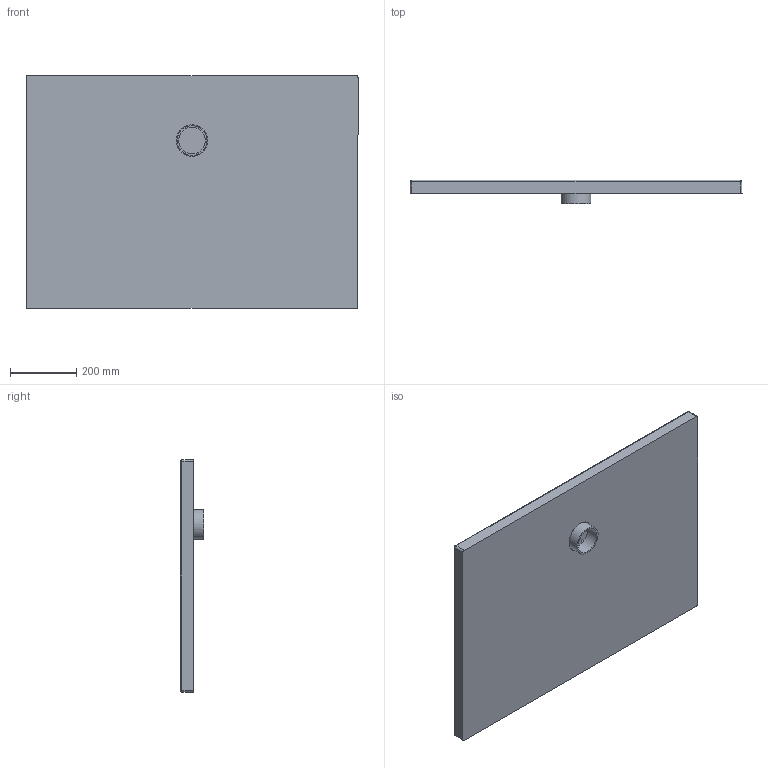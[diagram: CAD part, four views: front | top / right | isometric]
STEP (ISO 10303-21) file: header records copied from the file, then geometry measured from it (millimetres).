
FILE_DESCRIPTION (( 'STEP AP203' ), '1' );
FILE_NAME ('REPD10007040.STEP', '2025-05-06T09:45:48', ( '' ), ( '' ), 'SwSTEP 2.0', 'SolidWorks 2024', '' );
FILE_SCHEMA (( 'CONFIG_CONTROL_DESIGN' ));
Length unit declared in the file: millimetre
Products named in the file (3): PILETTA PIATTI DOCCIA; REPD10007040
Assembly tree (2 placements, depth 2):
  REPD10007040
    REPD10007040
    PILETTA PIATTI DOCCIA
Bounding box: 1001.4 x 71 x 701.4 mm (x, y, z)
Volume: 23949113.6 mm3; surface area: 1579796 mm2
Topology: 2 solids, 2 shells, 547 faces, 1152 edges, 759 vertices
Faces by surface type: bspline 488, plane 28, cylinder 21, sphere 4, torus 4, cone 2
Full cylindrical faces by diameter (mm): 80 x1, 90 x1, 95 x1, 114 x1, 120 x1
Entity records: 139364 total; most frequent: CARTESIAN_POINT 132406, ORIENTED_EDGE 1322, EDGE_LOOP 1046, FACE_OUTER_BOUND 872, EDGE_CURVE 661, VERTEX_POINT 599, ADVANCED_FACE 547, B_SPLINE_CURVE_WITH_KNOTS 505
